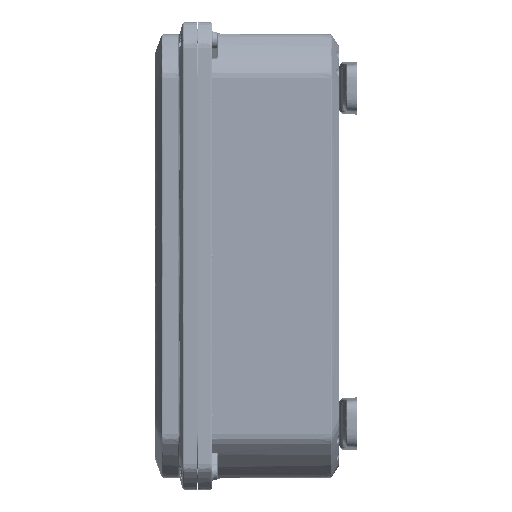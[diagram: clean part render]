
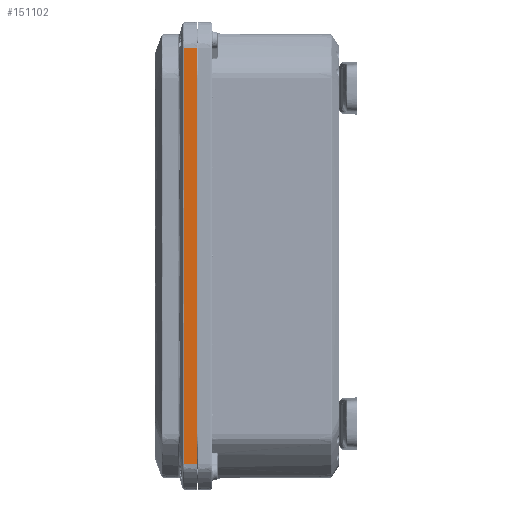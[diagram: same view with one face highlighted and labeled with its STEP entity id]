
A CAD part, left-side view. The second image highlights one B-rep face of the part: STEP entity #151102.
In plain terms, the highlighted planar face has unit normal (-0.999, 0.035, 0).
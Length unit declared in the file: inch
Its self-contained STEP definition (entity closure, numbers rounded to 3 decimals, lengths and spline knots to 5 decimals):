
#8167 = CARTESIAN_POINT ( 'NONE',  ( -7.60731, 0.36333, 5.87512 ) ) ;
#9363 = CARTESIAN_POINT ( 'NONE',  ( -7.60732, 0.36322, 1.96349 ) ) ;
#14897 = PLANE ( 'NONE',  #178711 ) ;
#20564 = CARTESIAN_POINT ( 'NONE',  ( -7.60733, 0.36296, -5.89046 ) ) ;
#29255 = CARTESIAN_POINT ( 'NONE',  ( -7.62, 0., -5.89046 ) ) ;
#31228 = CARTESIAN_POINT ( 'NONE',  ( -7.60732, 0.36315, 3.4361 ) ) ;
#33832 = CARTESIAN_POINT ( 'NONE',  ( -7.62, 0., -5.89046 ) ) ;
#41339 = ORIENTED_EDGE ( 'NONE', *, *, #166972, .T. ) ;
#43492 = CARTESIAN_POINT ( 'NONE',  ( -7.60731, 0.36335, -5.67571 ) ) ;
#44640 = CARTESIAN_POINT ( 'NONE',  ( -7.60733, 0.36296, 5.89046 ) ) ;
#44694 = CARTESIAN_POINT ( 'NONE',  ( -7.60731, 0.3634, -5.85978 ) ) ;
#45902 = CARTESIAN_POINT ( 'NONE',  ( -7.60732, 0.36322, -1.96349 ) ) ;
#46342 = DIRECTION ( 'NONE',  ( 0., 0., 1. ) ) ;
#49543 = CARTESIAN_POINT ( 'NONE',  ( -7.60733, 0.36296, 5.89046 ) ) ;
#50166 = CARTESIAN_POINT ( 'NONE',  ( -7.62, 0., -5.89046 ) ) ;
#58805 = VERTEX_POINT ( 'NONE', #159334 ) ;
#61782 = CARTESIAN_POINT ( 'NONE',  ( -7.60731, 0.36331, -5.46095 ) ) ;
#63006 = CARTESIAN_POINT ( 'NONE',  ( -7.60731, 0.36335, -0.98174 ) ) ;
#69920 = EDGE_CURVE ( 'NONE', #114764, #152762, #236873, .T. ) ;
#72242 = CARTESIAN_POINT ( 'NONE',  ( -7.60731, 0.36337, 0. ) ) ;
#80135 = CARTESIAN_POINT ( 'NONE',  ( -7.60731, 0.36337, 0. ) ) ;
#82530 = CARTESIAN_POINT ( 'NONE',  ( -7.60731, 0.36333, -5.87512 ) ) ;
#82576 = CARTESIAN_POINT ( 'NONE',  ( -7.60731, 0.36338, 5.78309 ) ) ;
#83705 = CARTESIAN_POINT ( 'NONE',  ( -7.60732, 0.36314, -3.92698 ) ) ;
#89151 = LINE ( 'NONE', #50166, #140117 ) ;
#92404 = EDGE_CURVE ( 'NONE', #226315, #181151, #89151, .T. ) ;
#94083 = ORIENTED_EDGE ( 'NONE', *, *, #123449, .F. ) ;
#97203 = ORIENTED_EDGE ( 'NONE', *, *, #69920, .T. ) ;
#101182 = VECTOR ( 'NONE', #46342, 39.37008 ) ;
#102097 = CARTESIAN_POINT ( 'NONE',  ( -7.62, 0., 5.89046 ) ) ;
#105627 = CARTESIAN_POINT ( 'NONE',  ( -7.60731, 0.36337, 0. ) ) ;
#114764 = VERTEX_POINT ( 'NONE', #44640 ) ;
#119080 = CARTESIAN_POINT ( 'NONE',  ( -7.60733, 0.36296, -5.89046 ) ) ;
#119284 = ORIENTED_EDGE ( 'NONE', *, *, #92404, .T. ) ;
#123449 = EDGE_CURVE ( 'NONE', #114764, #58805, #133848, .T. ) ;
#129435 = DIRECTION ( 'NONE',  ( -0.035, -0.999, 0. ) ) ;
#133848 = LINE ( 'NONE', #102097, #229705 ) ;
#136158 = CARTESIAN_POINT ( 'NONE',  ( -7.60731, 0.36338, -5.78308 ) ) ;
#137367 = CARTESIAN_POINT ( 'NONE',  ( -7.60732, 0.36323, -5.03144 ) ) ;
#137815 = LINE ( 'NONE', #29255, #101182 ) ;
#140117 = VECTOR ( 'NONE', #198906, 39.37008 ) ;
#151102 = ADVANCED_FACE ( 'NONE', ( #181922 ), #14897, .T. ) ;
#152762 = VERTEX_POINT ( 'NONE', #72242 ) ;
#154438 = CARTESIAN_POINT ( 'NONE',  ( -7.60732, 0.36315, -3.4361 ) ) ;
#156883 = CARTESIAN_POINT ( 'NONE',  ( -7.60732, 0.36323, 5.03144 ) ) ;
#159253 = CARTESIAN_POINT ( 'NONE',  ( -7.60731, 0.36335, 5.67571 ) ) ;
#159334 = CARTESIAN_POINT ( 'NONE',  ( -7.62, 0., 5.89046 ) ) ;
#166972 = EDGE_CURVE ( 'NONE', #181151, #58805, #137815, .T. ) ;
#176420 = DIRECTION ( 'NONE',  ( -0.035, -0.999, 0. ) ) ;
#177575 = CARTESIAN_POINT ( 'NONE',  ( -7.60731, 0.36339, 5.8291 ) ) ;
#177816 = EDGE_LOOP ( 'NONE', ( #97203, #232766, #119284, #41339, #94083 ) ) ;
#178711 = AXIS2_PLACEMENT_3D ( 'NONE', #239144, #201403, #129435 ) ;
#178761 = CARTESIAN_POINT ( 'NONE',  ( -7.60731, 0.3634, 5.85978 ) ) ;
#181151 = VERTEX_POINT ( 'NONE', #33832 ) ;
#181500 = EDGE_CURVE ( 'NONE', #152762, #226315, #186877, .T. ) ;
#181922 = FACE_OUTER_BOUND ( 'NONE', #177816, .T. ) ;
#186877 = B_SPLINE_CURVE_WITH_KNOTS ( 'NONE', 3,
 ( #80135, #63006, #45902, #154438, #83705, #228770, #137367, #61782, #43492, #136158, #210515, #44694, #82530, #119080 ),
 .UNSPECIFIED., .F., .F.,
 ( 4, 2, 2, 1, 1, 1, 1, 2, 4 ),
 ( 0., 0.07481, 0.11221, 0.13092, 0.14027, 0.14494, 0.14728, 0.14845, 0.14962 ),
 .UNSPECIFIED. ) ;
#198265 = CARTESIAN_POINT ( 'NONE',  ( -7.60731, 0.36331, 5.46095 ) ) ;
#198906 = DIRECTION ( 'NONE',  ( -0.035, -0.999, 0. ) ) ;
#201403 = DIRECTION ( 'NONE',  ( -0.999, 0.035, 0. ) ) ;
#210515 = CARTESIAN_POINT ( 'NONE',  ( -7.60731, 0.36339, -5.8291 ) ) ;
#212947 = CARTESIAN_POINT ( 'NONE',  ( -7.60732, 0.36314, 4.17241 ) ) ;
#226315 = VERTEX_POINT ( 'NONE', #20564 ) ;
#228770 = CARTESIAN_POINT ( 'NONE',  ( -7.60732, 0.36319, -4.66328 ) ) ;
#229705 = VECTOR ( 'NONE', #176420, 39.37008 ) ;
#231227 = CARTESIAN_POINT ( 'NONE',  ( -7.60731, 0.36335, 0.98174 ) ) ;
#232766 = ORIENTED_EDGE ( 'NONE', *, *, #181500, .T. ) ;
#236873 = B_SPLINE_CURVE_WITH_KNOTS ( 'NONE', 3,
 ( #49543, #8167, #178761, #177575, #82576, #159253, #198265, #156883, #212947, #31228, #9363, #231227, #105627 ),
 .UNSPECIFIED., .F., .F.,
 ( 4, 2, 1, 1, 1, 1, 1, 2, 4 ),
 ( 0., 0.00117, 0.00234, 0.00468, 0.00935, 0.0187, 0.0374, 0.07481, 0.14962 ),
 .UNSPECIFIED. ) ;
#239144 = CARTESIAN_POINT ( 'NONE',  ( -7.62, 0., -5.89046 ) ) ;
